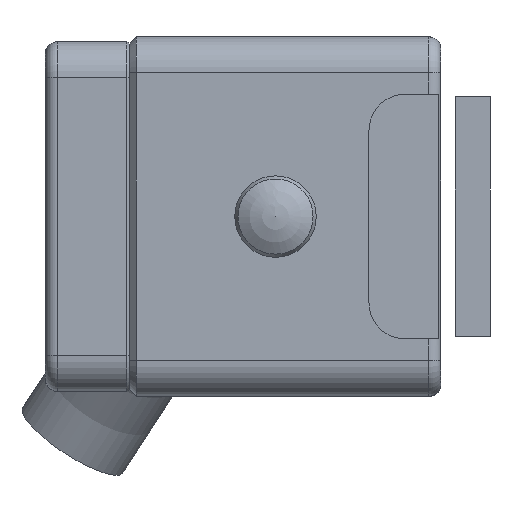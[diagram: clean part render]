
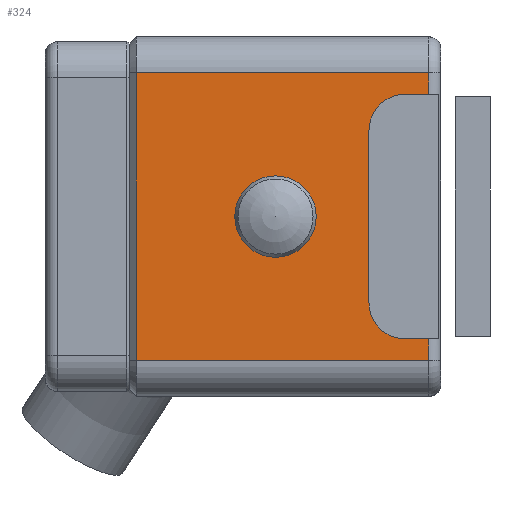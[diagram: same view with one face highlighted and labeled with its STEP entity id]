
A CAD part, left-side view. The second image highlights one B-rep face of the part: STEP entity #324.
In plain terms, the highlighted planar face has unit normal (-1, 0, 0).
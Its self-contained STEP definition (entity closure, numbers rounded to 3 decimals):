
#324=ADVANCED_FACE('',(#996,#997),#503,.F.);
#503=PLANE('',#2817);
#592=LINE('',#3939,#794);
#593=LINE('',#3942,#795);
#594=LINE('',#3944,#796);
#595=LINE('',#3946,#797);
#596=LINE('',#3950,#798);
#597=LINE('',#3954,#799);
#598=LINE('',#3956,#800);
#599=LINE('',#3958,#801);
#794=VECTOR('',#3124,1.);
#795=VECTOR('',#3125,1.);
#796=VECTOR('',#3126,1.);
#797=VECTOR('',#3127,1.);
#798=VECTOR('',#3130,1.);
#799=VECTOR('',#3133,1.);
#800=VECTOR('',#3134,1.);
#801=VECTOR('',#3135,1.);
#996=FACE_BOUND('',#1112,.T.);
#997=FACE_BOUND('',#1113,.T.);
#1112=EDGE_LOOP('',(#1350));
#1113=EDGE_LOOP('',(#1351,#1352,#1353,#1354,#1355,#1356,#1357,#1358,#1359,
#1360));
#1350=ORIENTED_EDGE('',*,*,#2319,.T.);
#1351=ORIENTED_EDGE('',*,*,#2320,.F.);
#1352=ORIENTED_EDGE('',*,*,#2321,.F.);
#1353=ORIENTED_EDGE('',*,*,#2322,.F.);
#1354=ORIENTED_EDGE('',*,*,#2323,.T.);
#1355=ORIENTED_EDGE('',*,*,#2324,.T.);
#1356=ORIENTED_EDGE('',*,*,#2325,.T.);
#1357=ORIENTED_EDGE('',*,*,#2326,.T.);
#1358=ORIENTED_EDGE('',*,*,#2327,.T.);
#1359=ORIENTED_EDGE('',*,*,#2328,.F.);
#1360=ORIENTED_EDGE('',*,*,#2329,.F.);
#2076=VERTEX_POINT('',#3938);
#2077=VERTEX_POINT('',#3940);
#2078=VERTEX_POINT('',#3941);
#2079=VERTEX_POINT('',#3943);
#2080=VERTEX_POINT('',#3945);
#2081=VERTEX_POINT('',#3947);
#2082=VERTEX_POINT('',#3949);
#2083=VERTEX_POINT('',#3951);
#2084=VERTEX_POINT('',#3953);
#2085=VERTEX_POINT('',#3955);
#2086=VERTEX_POINT('',#3957);
#2319=EDGE_CURVE('',#2076,#2076,#2682,.T.);
#2320=EDGE_CURVE('',#2077,#2078,#592,.T.);
#2321=EDGE_CURVE('',#2079,#2077,#593,.T.);
#2322=EDGE_CURVE('',#2080,#2079,#594,.T.);
#2323=EDGE_CURVE('',#2080,#2081,#595,.T.);
#2324=EDGE_CURVE('',#2081,#2082,#2683,.T.);
#2325=EDGE_CURVE('',#2082,#2083,#596,.T.);
#2326=EDGE_CURVE('',#2083,#2084,#2684,.T.);
#2327=EDGE_CURVE('',#2084,#2085,#597,.T.);
#2328=EDGE_CURVE('',#2086,#2085,#598,.T.);
#2329=EDGE_CURVE('',#2078,#2086,#599,.T.);
#2682=CIRCLE('',#2814,1.7);
#2683=CIRCLE('',#2815,1.5);
#2684=CIRCLE('',#2816,1.5);
#2814=AXIS2_PLACEMENT_3D('',#3937,#3122,#3123);
#2815=AXIS2_PLACEMENT_3D('',#3948,#3128,#3129);
#2816=AXIS2_PLACEMENT_3D('',#3952,#3131,#3132);
#2817=AXIS2_PLACEMENT_3D('',#3959,#3136,#3137);
#3122=DIRECTION('',(1.,0.,0.));
#3123=DIRECTION('',(0.,0.,1.));
#3124=DIRECTION('',(0.,0.,1.));
#3125=DIRECTION('',(0.,1.,0.));
#3126=DIRECTION('',(0.,0.,-1.));
#3127=DIRECTION('',(0.,1.,0.));
#3128=DIRECTION('',(1.,0.,0.));
#3129=DIRECTION('',(0.,1.,0.));
#3130=DIRECTION('',(0.,0.,1.));
#3131=DIRECTION('',(1.,0.,0.));
#3132=DIRECTION('',(0.,1.,0.));
#3133=DIRECTION('',(0.,-1.,0.));
#3134=DIRECTION('',(0.,0.,-1.));
#3135=DIRECTION('',(0.,-1.,0.));
#3136=DIRECTION('',(1.,0.,0.));
#3137=DIRECTION('',(0.,0.,-1.));
#3937=CARTESIAN_POINT('',(-1.,7.4,8.));
#3938=CARTESIAN_POINT('',(-1.,7.4,9.7));
#3939=CARTESIAN_POINT('',(-1.,13.2,0.));
#3940=CARTESIAN_POINT('',(-1.,13.2,2.));
#3941=CARTESIAN_POINT('',(-1.,13.2,14.));
#3942=CARTESIAN_POINT('',(-1.,-1.,2.));
#3943=CARTESIAN_POINT('',(-1.,1.,2.));
#3944=CARTESIAN_POINT('',(-1.,1.,0.));
#3945=CARTESIAN_POINT('',(-1.,1.,2.9));
#3946=CARTESIAN_POINT('',(-1.,-0.137,2.9));
#3947=CARTESIAN_POINT('',(-1.,2.,2.9));
#3948=CARTESIAN_POINT('',(-1.,2.,4.4));
#3949=CARTESIAN_POINT('',(-1.,3.5,4.4));
#3950=CARTESIAN_POINT('',(-1.,3.5,4.4));
#3951=CARTESIAN_POINT('',(-1.,3.5,11.6));
#3952=CARTESIAN_POINT('',(-1.,2.,11.6));
#3953=CARTESIAN_POINT('',(-1.,2.,13.1));
#3954=CARTESIAN_POINT('',(-1.,-0.137,13.1));
#3955=CARTESIAN_POINT('',(-1.,1.,13.1));
#3956=CARTESIAN_POINT('',(-1.,1.,0.));
#3957=CARTESIAN_POINT('',(-1.,1.,14.));
#3958=CARTESIAN_POINT('',(-1.,-1.,14.));
#3959=CARTESIAN_POINT('',(-1.,0.,0.));
